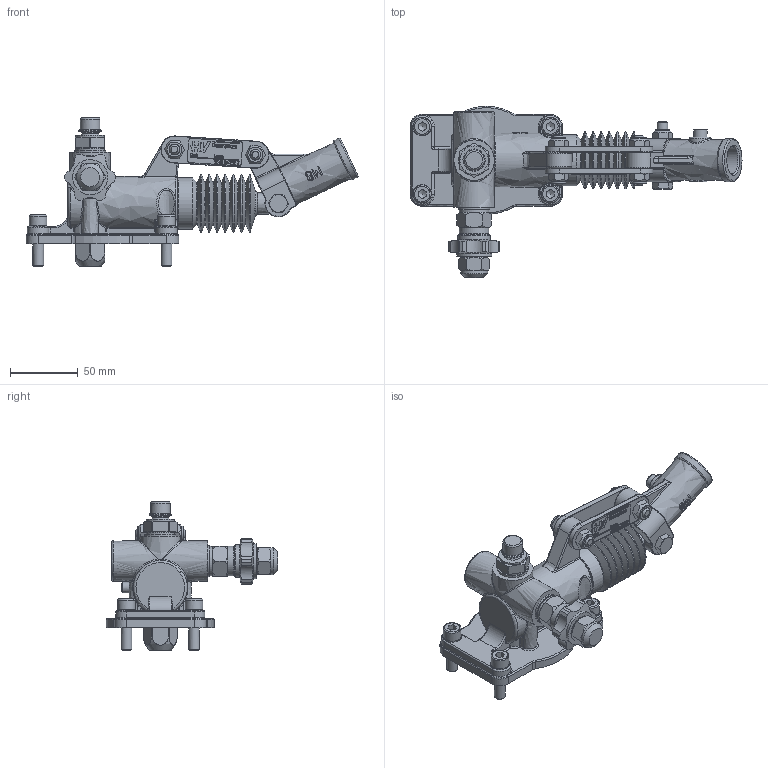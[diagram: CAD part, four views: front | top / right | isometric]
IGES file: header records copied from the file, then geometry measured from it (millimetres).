
Global section: file name: No Iges File Name specified; native system: Autodesk Inventor 2013; preprocessor: AutoDesk Inventor Iges Exporter R2013; author: christian.scardovi; date: 20240325.160343; units: millimetre
Bounding box: 245.91 x 126.99 x 110 mm (x, y, z)
Volume: 369171.3 mm3; surface area: 94744.7 mm2
Topology: 1 solids, 1 shells, 1382 faces, 3440 edges, 2139 vertices
Faces by surface type: bspline 1382
